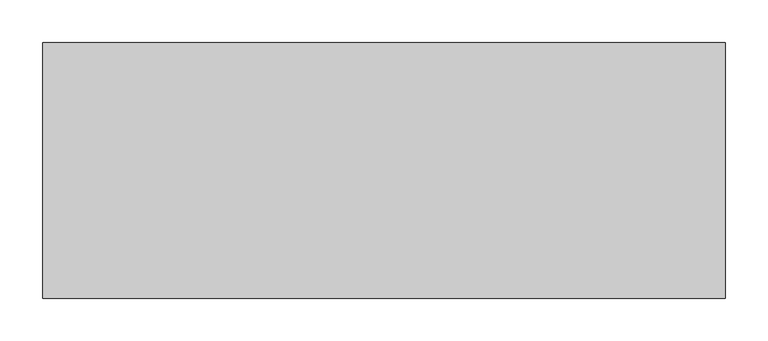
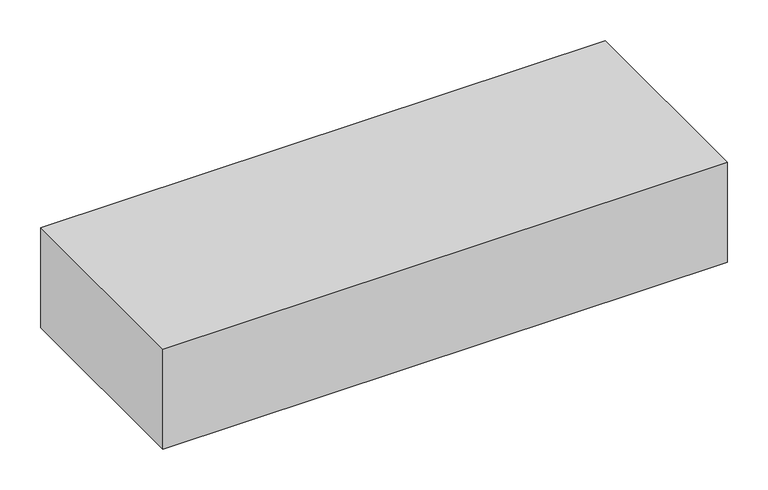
"""IFC4 building model written with IfcOpenShell, lengths in millimetres: proxy geometry, 400_24_NS_bloktrede : bloktrede."""

import ifcopenshell
import ifcopenshell.guid

model = None  # the IFC model being written
_history = None  # IfcOwnerHistory: only IFC2X3 demands one
_inside = {}  # id of a spatial element -> (the spatial element, [elements in it])
_under = {}  # id of a project, library or spatial element -> (it, [spatial elements below it])
_declared = {}  # id of a project -> (the project, [libraries it declares])
_typed = {}  # id of a type object -> (the type object, [elements of that type])
_made_of = {}  # id of a material, layer set ... -> (it, [elements and type objects made of it])


def new_model(schema):
    """Start an empty IFC model of exactly this schema.

    Asked for "IFC4X3", IfcOpenShell would pick the latest addendum, in which some entities
    have other attributes; the version numbers below select the first issue.
    IFC2X3 requires an IfcOwnerHistory on every rooted entity: one is made here for all.
    """
    global model, _history
    if schema == "IFC4X3":
        model = ifcopenshell.file(schema_version=(4, 3, 0, 0))
    else:
        model = ifcopenshell.file(schema=schema)
    _inside.clear()
    _under.clear()
    _declared.clear()
    _typed.clear()
    _made_of.clear()
    _history = None
    if model.schema == "IFC2X3":
        org = make("IfcOrganization", Name="unknown")
        user = make(
            "IfcPersonAndOrganization",
            ThePerson=make("IfcPerson", FamilyName="unknown"),
            TheOrganization=org,
        )
        app = make(
            "IfcApplication",
            ApplicationDeveloper=org,
            Version="unknown",
            ApplicationFullName="unknown",
            ApplicationIdentifier="unknown",
        )
        _history = make(
            "IfcOwnerHistory",
            OwningUser=user,
            OwningApplication=app,
            ChangeAction="ADDED",
            CreationDate=0,
        )
    return model


def make(cls, **values):
    """One entity of the class cls with the attributes given. An attribute that is None is left unset."""
    return model.create_entity(
        cls, **{name: value for name, value in values.items() if value is not None}
    )


def rooted(cls, **values):
    """An entity with a GlobalId (a new one), such as an element, a storey or a relation."""
    return make(cls, GlobalId=ifcopenshell.guid.new(), OwnerHistory=_history, **values)


def si_unit(unit_type, name, prefix=None):
    """IfcSIUnit, for example si_unit("LENGTHUNIT", "METRE", prefix="MILLI")."""
    return make("IfcSIUnit", UnitType=unit_type, Prefix=prefix, Name=name)


def assignment(units):
    """IfcUnitAssignment: the units of a project."""
    return None if units is None else make("IfcUnitAssignment", Units=units)


def point(xyz):
    """IfcCartesianPoint."""
    return None if xyz is None else make("IfcCartesianPoint", Coordinates=xyz)


def direction(xyz):
    """IfcDirection."""
    return None if xyz is None else make("IfcDirection", DirectionRatios=xyz)


def frame(location, z_axis=None, x_axis=None):
    """IfcAxis2Placement3D, a coordinate frame: its origin and axes. An axis left out is left unset."""
    return make(
        "IfcAxis2Placement3D",
        Location=point(location),
        Axis=direction(z_axis),
        RefDirection=direction(x_axis),
    )


def origin():
    """The frame at (0, 0, 0) with its axes left unset."""
    return frame((0.0, 0.0, 0.0))


def origin_with_axes():
    """The frame at (0, 0, 0) with the z axis (0, 0, 1) and the x axis (1, 0, 0) written out."""
    return frame((0.0, 0.0, 0.0), z_axis=(0.0, 0.0, 1.0), x_axis=(1.0, 0.0, 0.0))


def place(relative_to, where):
    """IfcLocalPlacement: puts the frame where relative to a parent placement (None: the world)."""
    return make(
        "IfcLocalPlacement", PlacementRelTo=relative_to, RelativePlacement=where
    )


def context(
    kind, dimensions, precision=None, world=None, true_north=None, identifier=None
):
    """IfcGeometricRepresentationContext, for example the 3D "Model" context."""
    return make(
        "IfcGeometricRepresentationContext",
        ContextIdentifier=identifier,
        ContextType=kind,
        CoordinateSpaceDimension=dimensions,
        Precision=precision,
        WorldCoordinateSystem=world,
        TrueNorth=true_north,
    )


def project(units=None, contexts=None):
    """IfcProject with its units and contexts."""
    return rooted(
        "IfcProject",
        Name="project",
        RepresentationContexts=contexts,
        UnitsInContext=assignment(units),
    )


def spatial(cls, under=None, at=None, **own):
    """A site, building, storey or space (cls), placed at a placement, below another one or the project."""
    s = rooted(cls, ObjectPlacement=at, **own)
    if under is not None:
        _under.setdefault(under.id(), (under, []))[1].append(s)
    return s


def polyline(points):
    """IfcPolyline through the points."""
    return make("IfcPolyline", Points=[point(p) for p in points])


def outline(outer, holes=None, kind="AREA"):
    """IfcArbitraryClosedProfileDef: a profile drawn as a closed curve; with holes, ...WithVoids."""
    if holes is None:
        return make("IfcArbitraryClosedProfileDef", ProfileType=kind, OuterCurve=outer)
    return make(
        "IfcArbitraryProfileDefWithVoids",
        ProfileType=kind,
        OuterCurve=outer,
        InnerCurves=holes,
    )


def extrude(swept, where, along, depth):
    """IfcExtrudedAreaSolid: the profile swept, set in the frame where, extruded along a direction by depth."""
    return make(
        "IfcExtrudedAreaSolid",
        SweptArea=swept,
        Position=where,
        ExtrudedDirection=direction(along),
        Depth=depth,
    )


def shape(context_of_items, identifier, shape_type, items):
    """IfcShapeRepresentation: the items that make up one representation, for example the "Body"."""
    return make(
        "IfcShapeRepresentation",
        ContextOfItems=context_of_items,
        RepresentationIdentifier=identifier,
        RepresentationType=shape_type,
        Items=items,
    )


def source(mapping_origin, context_of_items, identifier, shape_type, items):
    """IfcRepresentationMap: a shape defined once, which mapped items show again and again."""
    return make(
        "IfcRepresentationMap",
        MappingOrigin=mapping_origin,
        MappedRepresentation=shape(context_of_items, identifier, shape_type, items),
    )


def transform(
    local_origin,
    x_axis=None,
    y_axis=None,
    z_axis=None,
    scale=None,
    scale2=None,
    scale3=None,
    uniform=True,
):
    """IfcCartesianTransformationOperator3D, or its non-uniform kind. x_axis, y_axis, z_axis: its Axis1, 2, 3."""
    if uniform:
        return make(
            "IfcCartesianTransformationOperator3D",
            Axis1=direction(x_axis),
            Axis2=direction(y_axis),
            LocalOrigin=point(local_origin),
            Scale=scale,
            Axis3=direction(z_axis),
        )
    return make(
        "IfcCartesianTransformationOperator3DnonUniform",
        Axis1=direction(x_axis),
        Axis2=direction(y_axis),
        LocalOrigin=point(local_origin),
        Scale=scale,
        Axis3=direction(z_axis),
        Scale2=scale2,
        Scale3=scale3,
    )


def mapped(mapping_source, mapping_target):
    """IfcMappedItem: shows the shape of a source again, moved by a transform."""
    return make(
        "IfcMappedItem", MappingSource=mapping_source, MappingTarget=mapping_target
    )


def made_of(thing, what):
    """Note that an element or type object is made of a material, layer set ...; save() writes the relation."""
    if what is not None:
        _made_of.setdefault(what.id(), (what, []))[1].append(thing)
    return thing


def element(
    cls,
    number,
    at=None,
    inside=None,
    cuts=None,
    type_object=None,
    material=None,
    context=None,
    identifier="Body",
    shape_type=None,
    held_by="IfcProductDefinitionShape",
    body=None,
    shapes=None,
    **own,
):
    """One element of the class cls, such as IfcWall. Its Tag is "e" and its number.

    at: its placement. inside: the storey or other place that contains it. cuts: it is an
    opening in that element (IfcRelVoidsElement). A single representation is given by context,
    identifier, shape_type and body (its items); several are given by shapes. held_by: the class
    of the entity that holds the representations. save() writes the other relations.
    """
    e = rooted(cls, Tag="e%d" % number, ObjectPlacement=at, **own)
    if body is not None:
        shapes = [shape(context, identifier, shape_type, body)]
    if shapes is not None:
        e.Representation = make(held_by, Representations=shapes)
    if inside is not None:
        _inside.setdefault(inside.id(), (inside, []))[1].append(e)
    if cuts is not None:
        rooted(
            "IfcRelVoidsElement", RelatingBuildingElement=cuts, RelatedOpeningElement=e
        )
    if type_object is not None:
        _typed.setdefault(type_object.id(), (type_object, []))[1].append(e)
    return made_of(e, material)


def aggregate(whole, parts):
    """IfcRelAggregates: a whole, such as a stair, and the parts it consists of."""
    return rooted("IfcRelAggregates", RelatingObject=whole, RelatedObjects=parts)


def save(model, path):
    """Write the relations noted so far, then the file.

    IfcRelAggregates (storeys below a building ...), IfcRelContainedInSpatialStructure (elements
    in a storey), IfcRelDefinesByType, IfcRelAssociatesMaterial and IfcRelDeclares: one each for
    every whole, place, type object, material and project.
    """
    for whole, parts in _under.values():
        aggregate(whole, parts)
    for where, things in _inside.values():
        rooted(
            "IfcRelContainedInSpatialStructure",
            RelatedElements=things,
            RelatingStructure=where,
        )
    for kind, things in _typed.values():
        rooted("IfcRelDefinesByType", RelatedObjects=things, RelatingType=kind)
    for what, things in _made_of.values():
        rooted("IfcRelAssociatesMaterial", RelatedObjects=things, RelatingMaterial=what)
    for by, libraries in _declared.values():
        rooted("IfcRelDeclares", RelatingContext=by, RelatedDefinitions=libraries)
    model.write(path)


def generic_models_c970b44f(model_context):
    return source(origin(), model_context, "Body", "SweptSolid", [
        extrude(outline(polyline([(800.0, 300.0), (800.0, 0.0), (0.0, 0.0), (0.0, 300.0), (800.0, 300.0)])), origin_with_axes(), (0.0, 0.0, 1.0), 150.0),
    ])


if __name__ == "__main__":
    model = new_model("IFC4")
    model_context = context("Model", 3, world=origin())
    ifc_project = project(units=[si_unit("LENGTHUNIT", "METRE", prefix="MILLI")], contexts=[model_context])
    site = spatial("IfcSite", under=ifc_project)
    building = spatial("IfcBuilding", under=site)
    placement = place(None, origin())
    generic_models_shape = generic_models_c970b44f(model_context)
    element("IfcBuildingElementProxy", 1, Name="400_24_NS_bloktrede : bloktrede", ObjectType="400_24_NS_bloktrede : bloktrede", at=placement, inside=building, context=model_context, shape_type="MappedRepresentation", body=[
        mapped(generic_models_shape, transform((0.0, 0.0, 0.0), x_axis=(1.0, 0.0, 0.0), y_axis=(0.0, 1.0, 0.0), z_axis=(0.0, 0.0, 1.0))),
    ])
    save(model, "model.ifc")
